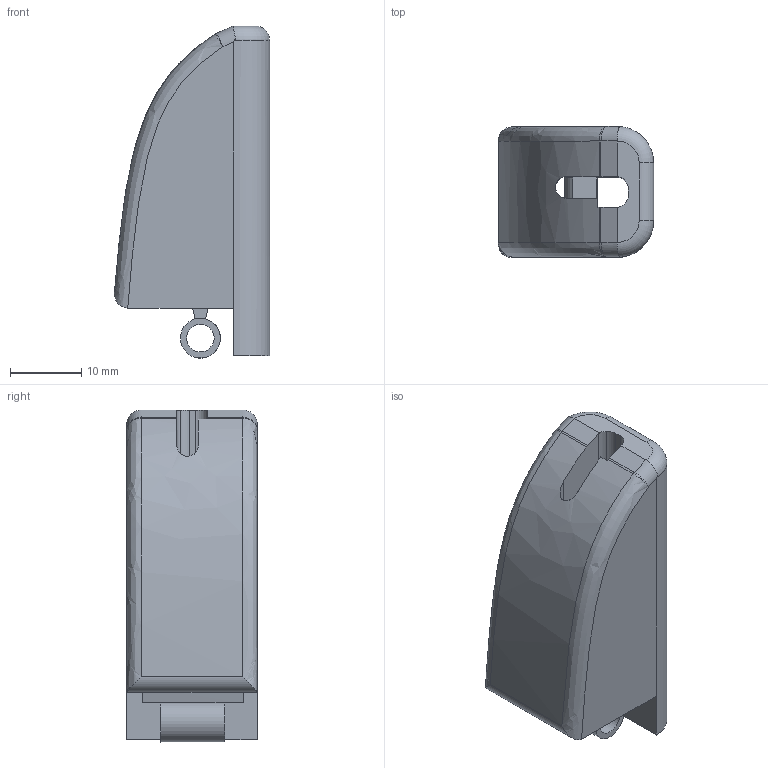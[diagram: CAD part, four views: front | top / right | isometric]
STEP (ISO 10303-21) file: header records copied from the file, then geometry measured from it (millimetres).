
FILE_DESCRIPTION(/* description */ ('STEP AP242 Edition 2','CAx-IF Rec.Pracs.---Representation and Presentation of Product Manufacturing Information (PMI)---4.0---2014-10-13','CAx-IF Rec.Pracs.---3D Tessellated Geometry---0.4---2014-09-14','2;1','CAx-IF Rec.Pracs.---User Defined Attributes---1.5---2016-08-15'),/* implementation_level */ '2;1');
FILE_NAME(/* name */ 'Assembly 1 - Mid Tih',/* time_stamp */ '2026-06-19T18:21:06Z',/* author */ (''),/* organization */ (''),/* preprocessor_version */ 'ST-DEVELOPER v20',/* originating_system */ 'ONSHAPE BY PTC INC, 1.216',/* authorisation */ ' ');
FILE_SCHEMA (('AP242_MANAGED_MODEL_BASED_3D_ENGINEERING_MIM_LF { 1 0 10303 442 3 1 4 }'));
Length unit declared in the file: metre
Products named in the file (1): Mid Tih
Bounding box: 21.86 x 18.37 x 46.74 mm (x, y, z)
Volume: 11862.3 mm3; surface area: 4801.8 mm2
Topology: 1 solids, 1 shells, 68 faces, 196 edges, 124 vertices
Faces by surface type: plane 42, cylinder 17, bspline 3, torus 2, sphere 2, cone 2
Full cylindrical faces by diameter (mm): 3.865 x1
Entity records: 2391 total; most frequent: CARTESIAN_POINT 592, ORIENTED_EDGE 386, DIRECTION 355, EDGE_CURVE 193, LINE 129, VECTOR 129, VERTEX_POINT 124, AXIS2_PLACEMENT_3D 113
